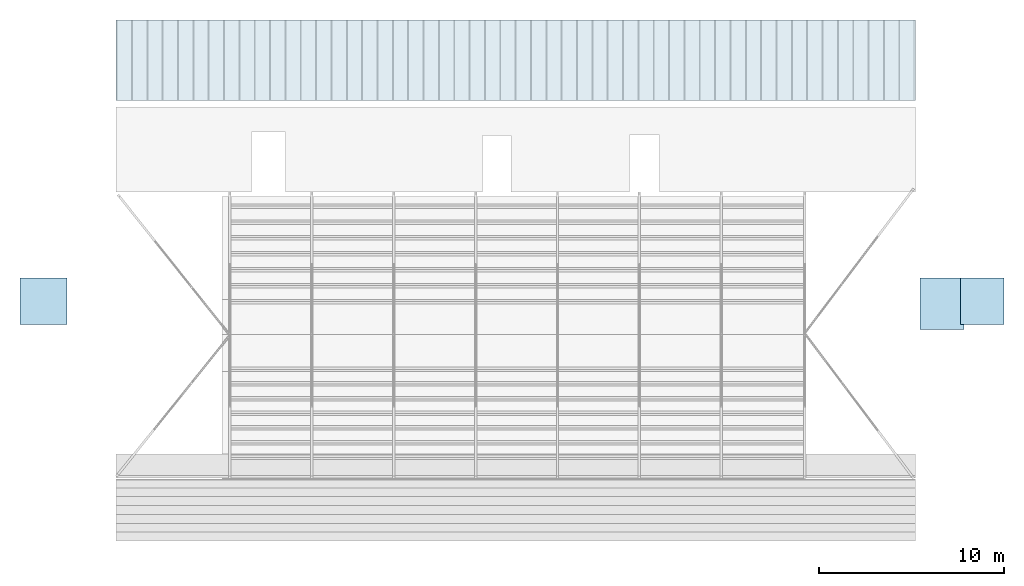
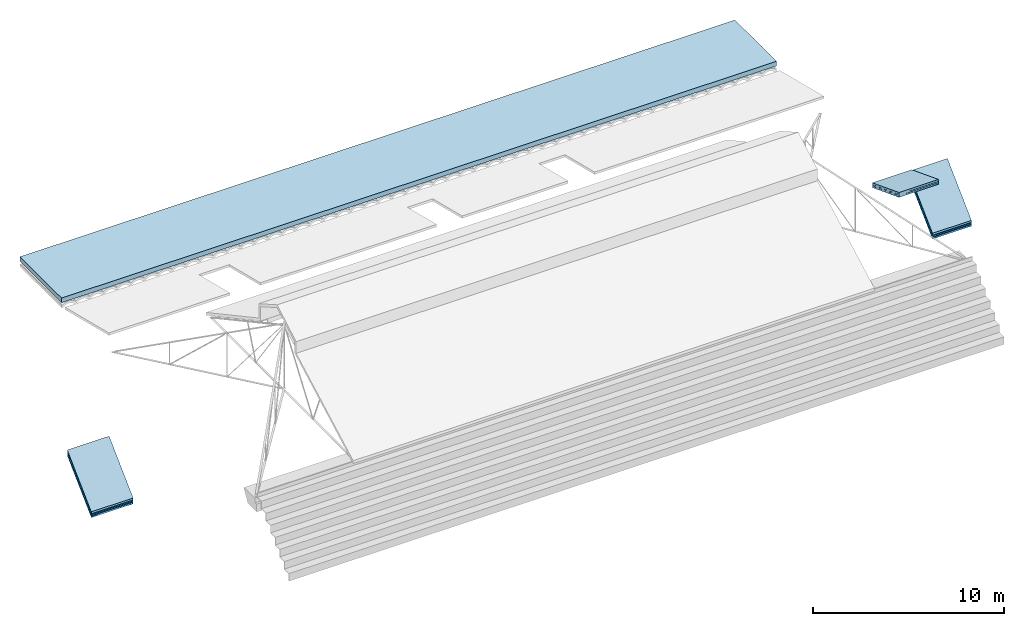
# One storey, part 14 of 15: 4 slabs, 4 elements without a shape of their own.
"""IFC4 building model written with IfcOpenShell, lengths in metres."""

from ifc_helpers import new_model, entity, si_unit, converted_unit, derived_unit, direction, frame, origin, place, context, subcontext, project, spatial, indexed_curve, outline, extrude, material, constituent, constituent_set, type_object, element, aggregate, save


model = new_model("IFC4")

# Units and contexts
model_context = context("Model", 3, precision=1e-05, world=origin(), true_north=direction((6.123031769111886e-17, 1.0)))
body_context = subcontext(model_context, "Body", "Model", "MODEL_VIEW")
ifc_project = project(units=[si_unit("LENGTHUNIT", "METRE"), si_unit("AREAUNIT", "SQUARE_METRE"), si_unit("VOLUMEUNIT", "CUBIC_METRE"), converted_unit("PLANEANGLEUNIT", "DEGREE", entity("IfcRatioMeasure", 0.017453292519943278), si_unit("PLANEANGLEUNIT", "RADIAN"), dimensions=[0, 0, 0, 0, 0, 0, 0]), si_unit("MASSUNIT", "GRAM", prefix="KILO"), derived_unit("MASSDENSITYUNIT", [(si_unit("MASSUNIT", "GRAM", prefix="KILO"), 1), (si_unit("LENGTHUNIT", "METRE"), -3)]), derived_unit("MOMENTOFINERTIAUNIT", [(si_unit("LENGTHUNIT", "METRE"), 4)]), si_unit("TIMEUNIT", "SECOND"), si_unit("FREQUENCYUNIT", "HERTZ"), si_unit("THERMODYNAMICTEMPERATUREUNIT", "DEGREE_CELSIUS"), derived_unit("THERMALTRANSMITTANCEUNIT", [(si_unit("MASSUNIT", "GRAM", prefix="KILO"), 1), (si_unit("THERMODYNAMICTEMPERATUREUNIT", "KELVIN"), -1), (si_unit("TIMEUNIT", "SECOND"), -3)]), derived_unit("VOLUMETRICFLOWRATEUNIT", [(si_unit("LENGTHUNIT", "METRE"), 3), (si_unit("TIMEUNIT", "SECOND"), -1)]), derived_unit("MASSFLOWRATEUNIT", [(si_unit("MASSUNIT", "GRAM", prefix="KILO"), 1), (si_unit("TIMEUNIT", "SECOND"), -1)]), derived_unit("ROTATIONALFREQUENCYUNIT", [(si_unit("TIMEUNIT", "SECOND"), -1)]), si_unit("ELECTRICCURRENTUNIT", "AMPERE"), si_unit("ELECTRICVOLTAGEUNIT", "VOLT"), si_unit("POWERUNIT", "WATT"), si_unit("FORCEUNIT", "NEWTON", prefix="KILO"), si_unit("ILLUMINANCEUNIT", "LUX"), si_unit("LUMINOUSFLUXUNIT", "LUMEN"), si_unit("LUMINOUSINTENSITYUNIT", "CANDELA"), derived_unit("USERDEFINED", [(si_unit("MASSUNIT", "GRAM", prefix="KILO"), -1), (si_unit("LENGTHUNIT", "METRE"), -2), (si_unit("TIMEUNIT", "SECOND"), 3), (si_unit("LUMINOUSFLUXUNIT", "LUMEN"), 1)]), derived_unit("SOUNDPOWERUNIT", [(si_unit("MASSUNIT", "GRAM", prefix="KILO"), 1), (si_unit("LENGTHUNIT", "METRE"), 2), (si_unit("TIMEUNIT", "SECOND"), -3)]), derived_unit("SOUNDPRESSUREUNIT", [(si_unit("MASSUNIT", "GRAM", prefix="KILO"), 1), (si_unit("LENGTHUNIT", "METRE"), -1), (si_unit("TIMEUNIT", "SECOND"), -2)]), derived_unit("LINEARVELOCITYUNIT", [(si_unit("LENGTHUNIT", "METRE"), 1), (si_unit("TIMEUNIT", "SECOND"), -1)]), si_unit("PRESSUREUNIT", "PASCAL"), derived_unit("USERDEFINED", [(si_unit("LENGTHUNIT", "METRE"), -2), (si_unit("MASSUNIT", "GRAM", prefix="KILO"), 1), (si_unit("TIMEUNIT", "SECOND"), -2)]), derived_unit("LINEARFORCEUNIT", [(si_unit("MASSUNIT", "GRAM", prefix="KILO"), 1), (si_unit("LENGTHUNIT", "METRE"), 1), (si_unit("TIMEUNIT", "SECOND"), -2), (si_unit("LENGTHUNIT", "METRE"), -1)]), derived_unit("PLANARFORCEUNIT", [(si_unit("MASSUNIT", "GRAM", prefix="KILO"), 1), (si_unit("LENGTHUNIT", "METRE"), 1), (si_unit("TIMEUNIT", "SECOND"), -2), (si_unit("LENGTHUNIT", "METRE"), -2)])], contexts=[model_context])

# Site, building, storey
site_placement = place(None, origin())
site = spatial("IfcSite", under=ifc_project, at=site_placement, Name="Superficie", CompositionType="ELEMENT")
building_placement = place(site_placement, origin())
building = spatial("IfcBuilding", under=site, at=building_placement, CompositionType="ELEMENT")
storey_placement = place(building_placement, frame((0.0, 0.0, 7.25)))
storey = spatial("IfcBuildingStorey", under=building, at=storey_placement, Name="Nivel 2", CompositionType="ELEMENT", Elevation=7.25)

# Roof, slab
roof_1_placement = place(storey_placement, frame((-27.84320098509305, -1.3896675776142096, -4.3671164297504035)))
roof_1 = element("IfcRoof", 1, at=roof_1_placement, inside=storey, Name="Cubierta básica:Plana tradicional transitable - 30 cm 2", ObjectType="Cubierta básica:Plana tradicional transitable - 30 cm 2", PredefinedType="NOTDEFINED")
ifc_material_1 = material(Name="Cerámica blanca", Category="Cerámica")
ifc_constituent_1 = constituent(ifc_material_1, Name="Cerámica blanca", Category="Cerámica")
ifc_material_2 = material(Name="Hormigón y arena", Category="Hormigón")
ifc_constituent_2 = constituent(ifc_material_2, Name="Hormigón y arena", Category="Hormigón")
ifc_material_3 = material(Name="Aislamiento térmico", Category="Varios")
ifc_constituent_3 = constituent(ifc_material_3, Name="Aislamiento térmico", Category="Varios")
ifc_material_4 = material(Name="Hormigón", Category="Hormigón")
ifc_constituent_4 = constituent(ifc_material_4, Name="Hormigón", Category="Hormigón")
ifc_constituent_set = constituent_set(constituents=[ifc_constituent_1, ifc_constituent_2, ifc_constituent_3, ifc_constituent_4], Name="Cubierta básica:Plana tradicional transitable - 30 cm 2")
slab_type_1 = type_object("IfcSlabType", Name="Cubierta básica:Plana tradicional transitable - 30 cm 2", PredefinedType="ROOF")
slab_1_placement = place(roof_1_placement, origin())
slab_1 = element("IfcSlab", 2, at=slab_1_placement, type_object=slab_type_1, material=ifc_constituent_set, Name="Cubierta básica:Plana tradicional transitable - 30 cm 2", ObjectType="Cubierta básica:Plana tradicional transitable - 30 cm 2", PredefinedType="ROOF", context=body_context, shape_type="SweptSolid", body=[
    extrude(outline(indexed_curve([(-1.2649999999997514, -1.7487584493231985), (1.2649999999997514, -1.7487584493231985), (1.2649999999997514, 1.7487584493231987), (-1.2649999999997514, 1.7487584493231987), (-1.2649999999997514, -1.7487584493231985)], self_intersect=False)), frame((1.2649999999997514, 1.2577484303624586, 1.2150000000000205), z_axis=(0.0, -0.6947786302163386, 0.7192236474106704), x_axis=(1.0, 0.0, 0.0)), (0.0, 0.6947786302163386, 0.7192236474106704), 0.02),
    extrude(outline(indexed_curve([(-1.2649999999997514, -1.7487584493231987), (1.2649999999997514, -1.7487584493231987), (1.2649999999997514, 1.7487584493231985), (-1.2649999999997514, 1.7487584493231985), (-1.2649999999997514, -1.7487584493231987)], self_intersect=False)), frame((1.2649999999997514, 1.2577484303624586, 1.2428077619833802), z_axis=(0.0, -0.6947786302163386, 0.7192236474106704), x_axis=(1.0, 0.0, 0.0)), (0.0, 0.6947786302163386, 0.7192236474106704), 0.08),
    extrude(outline(indexed_curve([(-1.2649999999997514, -1.7487584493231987), (1.2649999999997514, -1.7487584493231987), (1.2649999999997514, 1.7487584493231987), (-1.2649999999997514, 1.7487584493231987), (-1.2649999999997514, -1.7487584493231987)], self_intersect=False)), frame((1.2649999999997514, 1.2577484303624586, 1.3540388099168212), z_axis=(0.0, -0.6947786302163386, 0.7192236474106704), x_axis=(1.0, 0.0, 0.0)), (0.0, 0.6947786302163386, 0.7192236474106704), 0.08),
    extrude(outline(indexed_curve([(-1.2649999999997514, -1.7487584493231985), (1.2649999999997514, -1.7487584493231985), (1.2649999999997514, 1.7487584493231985), (-1.2649999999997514, 1.7487584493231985), (-1.2649999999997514, -1.7487584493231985)], self_intersect=False)), frame((1.2649999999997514, 1.2577484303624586, 1.465269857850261), z_axis=(0.0, -0.6947786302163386, 0.7192236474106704), x_axis=(1.0, 0.0, 0.0)), (0.0, 0.6947786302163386, 0.7192236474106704), 0.12),
])
aggregate(roof_1, [slab_1])

roof_2_placement = place(storey_placement, frame((23.021799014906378, -1.3896675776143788, -4.367116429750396)))
roof_2 = element("IfcRoof", 3, at=roof_2_placement, inside=storey, Name="Cubierta básica:Plana tradicional transitable - 30 cm 2", ObjectType="Cubierta básica:Plana tradicional transitable - 30 cm 2", PredefinedType="NOTDEFINED")
slab_type_2 = type_object("IfcSlabType", Name="Cubierta básica:Plana tradicional transitable - 30 cm 2", PredefinedType="ROOF")
slab_2_placement = place(roof_2_placement, origin())
slab_2 = element("IfcSlab", 4, at=slab_2_placement, type_object=slab_type_2, material=ifc_constituent_set, Name="Cubierta básica:Plana tradicional transitable - 30 cm 2", ObjectType="Cubierta básica:Plana tradicional transitable - 30 cm 2", PredefinedType="ROOF", context=body_context, shape_type="SweptSolid", body=[
    extrude(outline(indexed_curve([(-1.1775000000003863, -1.748758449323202), (1.1775000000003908, -1.7487584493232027), (1.1775000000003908, 1.7487584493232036), (-1.1775000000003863, 1.7487584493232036), (-1.1775000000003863, -1.748758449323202)], self_intersect=False)), frame((1.1775000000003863, 1.2577484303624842, 1.215000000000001), z_axis=(0.0, -0.6947786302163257, 0.7192236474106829), x_axis=(1.0, 0.0, 0.0)), (0.0, 0.6947786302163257, 0.7192236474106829), 0.02),
    extrude(outline(indexed_curve([(-1.1775000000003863, -1.748758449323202), (1.1775000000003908, -1.7487584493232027), (1.1775000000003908, 1.7487584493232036), (-1.1775000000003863, 1.7487584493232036), (-1.1775000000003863, -1.748758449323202)], self_intersect=False)), frame((1.1775000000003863, 1.2577484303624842, 1.2428077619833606), z_axis=(0.0, -0.6947786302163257, 0.7192236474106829), x_axis=(1.0, 0.0, 0.0)), (0.0, 0.6947786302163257, 0.7192236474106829), 0.08),
    extrude(outline(indexed_curve([(-1.1775000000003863, -1.748758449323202), (1.1775000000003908, -1.7487584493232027), (1.1775000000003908, 1.748758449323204), (-1.1775000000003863, 1.748758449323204), (-1.1775000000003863, -1.748758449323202)], self_intersect=False)), frame((1.1775000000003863, 1.2577484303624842, 1.3540388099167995), z_axis=(0.0, -0.6947786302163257, 0.7192236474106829), x_axis=(1.0, 0.0, 0.0)), (0.0, 0.6947786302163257, 0.7192236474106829), 0.08),
    extrude(outline(indexed_curve([(-1.1775000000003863, -1.748758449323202), (1.1775000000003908, -1.7487584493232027), (1.1775000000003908, 1.7487584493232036), (-1.1775000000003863, 1.7487584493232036), (-1.1775000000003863, -1.748758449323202)], self_intersect=False)), frame((1.1775000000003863, 1.2577484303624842, 1.4652698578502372), z_axis=(0.0, -0.6947786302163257, 0.7192236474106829), x_axis=(1.0, 0.0, 0.0)), (0.0, 0.6947786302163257, 0.7192236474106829), 0.12),
])
aggregate(roof_2, [slab_2])

roof_3_placement = place(storey_placement, frame((20.836799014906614, -1.664170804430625, -1.8413057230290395)))
roof_3 = element("IfcRoof", 5, at=roof_3_placement, inside=storey, Name="Cubierta básica:Plana tradicional transitable - 30 cm 2", ObjectType="Cubierta básica:Plana tradicional transitable - 30 cm 2", PredefinedType="NOTDEFINED")
slab_type_3 = type_object("IfcSlabType", Name="Cubierta básica:Plana tradicional transitable - 30 cm 2", PredefinedType="ROOF")
slab_3_placement = place(roof_3_placement, origin())
slab_3 = element("IfcSlab", 6, at=slab_3_placement, type_object=slab_type_3, material=ifc_constituent_set, Name="Cubierta básica:Plana tradicional transitable - 30 cm 2", ObjectType="Cubierta básica:Plana tradicional transitable - 30 cm 2", PredefinedType="ROOF", context=body_context, shape_type="SweptSolid", body=[
    extrude(outline(indexed_curve([(1.1924999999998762, 1.4940716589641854), (-1.1924999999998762, 1.4940716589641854), (-1.1924999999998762, -1.4940716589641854), (1.1924999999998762, -1.4940716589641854), (1.1924999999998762, 1.4940716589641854)], self_intersect=False)), frame((1.1924999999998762, 1.395000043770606, 0.5350000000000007), z_axis=(0.0, 0.35808188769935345, 0.9336901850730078), x_axis=(1.0, 0.0, 0.0)), (0.0, -0.35808188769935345, 0.9336901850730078), 0.02),
    extrude(outline(indexed_curve([(1.1924999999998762, 1.4940716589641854), (-1.1924999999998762, 1.4940716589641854), (-1.1924999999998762, -1.4940716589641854), (1.1924999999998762, -1.4940716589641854), (1.1924999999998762, 1.4940716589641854)], self_intersect=False)), frame((1.1924999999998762, 1.395000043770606, 0.5564203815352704), z_axis=(0.0, 0.35808188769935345, 0.9336901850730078), x_axis=(1.0, 0.0, 0.0)), (0.0, -0.35808188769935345, 0.9336901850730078), 0.08),
    extrude(outline(indexed_curve([(1.1924999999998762, 1.4940716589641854), (-1.1924999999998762, 1.4940716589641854), (-1.1924999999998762, -1.4940716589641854), (1.1924999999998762, -1.4940716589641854), (1.1924999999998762, 1.4940716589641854)], self_intersect=False)), frame((1.1924999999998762, 1.395000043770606, 0.642101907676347), z_axis=(0.0, 0.35808188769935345, 0.9336901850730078), x_axis=(1.0, 0.0, 0.0)), (0.0, -0.35808188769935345, 0.9336901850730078), 0.08),
    extrude(outline(indexed_curve([(1.1924999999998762, 1.4940716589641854), (-1.1924999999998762, 1.4940716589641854), (-1.1924999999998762, -1.4940716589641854), (1.1924999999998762, -1.4940716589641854), (1.1924999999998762, 1.4940716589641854)], self_intersect=False)), frame((1.1924999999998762, 1.395000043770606, 0.7277834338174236), z_axis=(0.0, 0.35808188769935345, 0.9336901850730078), x_axis=(1.0, 0.0, 0.0)), (0.0, -0.35808188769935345, 0.9336901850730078), 0.12),
])
aggregate(roof_3, [slab_3])

roof_4_placement = place(storey_placement, frame((-22.64320098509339, 10.730829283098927, 0.20000000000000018)))
roof_4 = element("IfcRoof", 7, at=roof_4_placement, inside=storey, Name="Cubierta básica:Plana tradicional transitable - 30 cm 2", ObjectType="Cubierta básica:Plana tradicional transitable - 30 cm 2", PredefinedType="NOTDEFINED")
slab_type_4 = type_object("IfcSlabType", Name="Cubierta básica:Plana tradicional transitable - 30 cm 2", PredefinedType="ROOF")
slab_4_placement = place(roof_4_placement, origin())
slab_4 = element("IfcSlab", 8, at=slab_4_placement, type_object=slab_type_4, material=ifc_constituent_set, Name="Cubierta básica:Plana tradicional transitable - 30 cm 2", ObjectType="Cubierta básica:Plana tradicional transitable - 30 cm 2", PredefinedType="ROOF", context=body_context, shape_type="SweptSolid", body=[
    extrude(outline(indexed_curve([(-21.615000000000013, 2.1774999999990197), (-21.615000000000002, -2.1774999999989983), (21.615000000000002, -2.1774999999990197), (21.615000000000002, 2.1774999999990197), (-21.615000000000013, 2.1774999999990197)], self_intersect=False)), frame((21.615000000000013, 2.1774999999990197, 0.0)), (0.0, 0.0, 1.0), 0.02),
    extrude(outline(indexed_curve([(-21.615000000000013, 2.1774999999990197), (-21.615000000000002, -2.1774999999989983), (21.615000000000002, -2.1774999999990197), (21.615000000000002, 2.1774999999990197), (-21.615000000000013, 2.1774999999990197)], self_intersect=False)), frame((21.615000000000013, 2.1774999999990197, 0.019999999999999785)), (0.0, 0.0, 1.0), 0.08),
    extrude(outline(indexed_curve([(-21.615000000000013, 2.1774999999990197), (-21.615000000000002, -2.1774999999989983), (21.615000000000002, -2.1774999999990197), (21.615000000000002, 2.1774999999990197), (-21.615000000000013, 2.1774999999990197)], self_intersect=False)), frame((21.615000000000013, 2.1774999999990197, 0.1)), (0.0, 0.0, 1.0), 0.08),
    extrude(outline(indexed_curve([(-21.615000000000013, 2.1774999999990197), (-21.615000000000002, -2.1774999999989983), (21.615000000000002, -2.1774999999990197), (21.615000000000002, 2.1774999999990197), (-21.615000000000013, 2.1774999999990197)], self_intersect=False)), frame((21.615000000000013, 2.1774999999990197, 0.18000000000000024)), (0.0, 0.0, 1.0), 0.12),
])
aggregate(roof_4, [slab_4])

save(model, "model.ifc")
